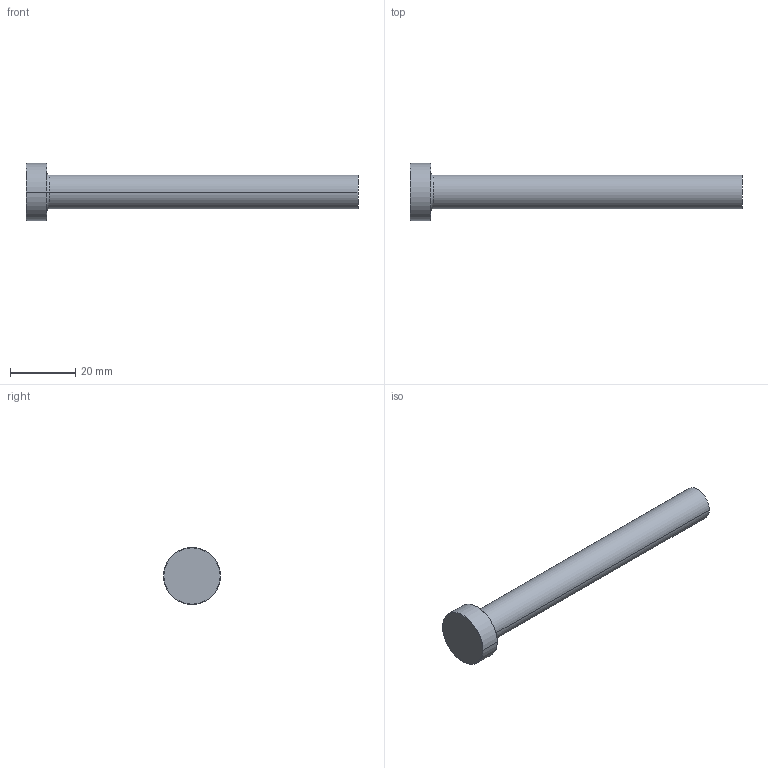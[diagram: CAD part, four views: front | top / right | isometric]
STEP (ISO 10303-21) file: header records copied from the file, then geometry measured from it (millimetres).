
FILE_DESCRIPTION (( 'STEP AP214' ), '1' );
FILE_NAME ('P27-4.STEP', '2020-03-12T10:06:40', ( '' ), ( '' ), 'SwSTEP 2.0', 'SolidWorks 2018', '' );
FILE_SCHEMA (( 'AUTOMOTIVE_DESIGN' ));
Length unit declared in the file: inch
Products named in the file (1): P27-4
Bounding box: 101.6 x 17.46 x 17.46 mm (x, y, z)
Volume: 9478.1 mm3; surface area: 3895.9 mm2
Topology: 1 solids, 1 shells, 13 faces, 24 edges, 14 vertices
Faces by surface type: cone 4, cylinder 4, plane 3, torus 2
Entity records: 366 total; most frequent: DIRECTION 68, CARTESIAN_POINT 52, ORIENTED_EDGE 48, AXIS2_PLACEMENT_3D 30, EDGE_CURVE 24, CIRCLE 16, EDGE_LOOP 14, VERTEX_POINT 14
